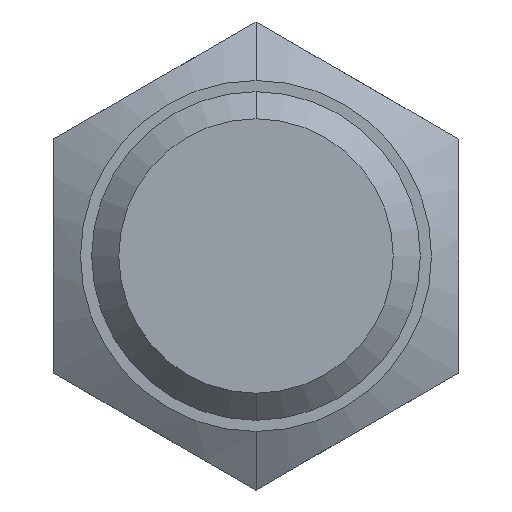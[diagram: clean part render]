
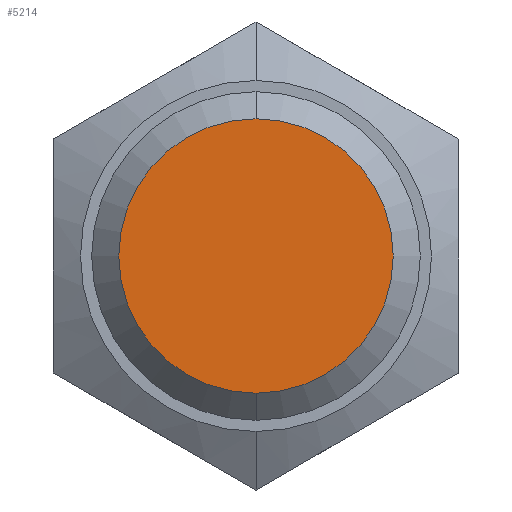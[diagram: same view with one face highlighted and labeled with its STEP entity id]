
A CAD part, front view. The second image highlights one B-rep face of the part: STEP entity #5214.
In plain terms, the highlighted planar face has unit normal (0, -1, 0).
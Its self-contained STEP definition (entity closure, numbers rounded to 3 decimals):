
#597 = VERTEX_POINT ( 'NONE', #4474 ) ;
#620 = VERTEX_POINT ( 'NONE', #4571 ) ;
#640 = EDGE_CURVE ( 'NONE', #620, #597, #4624, .T. ) ;
#3729 = CIRCLE ( 'NONE', #3730, 4.064 ) ;
#3730 = AXIS2_PLACEMENT_3D ( 'NONE', #3731, #3732, #3733 ) ;
#3731 = CARTESIAN_POINT ( 'NONE',  ( 0., -2., 0. ) ) ;
#3732 = DIRECTION ( 'NONE',  ( 0., -1., 0. ) ) ;
#3733 = DIRECTION ( 'NONE',  ( 0., 0., -1. ) ) ;
#4372 = FACE_OUTER_BOUND ( 'NONE', #5192, .T. ) ;
#4373 = PLANE ( 'NONE',  #4374 ) ;
#4374 = AXIS2_PLACEMENT_3D ( 'NONE', #4375, #4376, #4377 ) ;
#4375 = CARTESIAN_POINT ( 'NONE',  ( 0., -2., 0. ) ) ;
#4376 = DIRECTION ( 'NONE',  ( 0., -1., 0. ) ) ;
#4377 = DIRECTION ( 'NONE',  ( 0., 0., -1. ) ) ;
#4474 = CARTESIAN_POINT ( 'NONE',  ( 0., -2., 4.064 ) ) ;
#4571 = CARTESIAN_POINT ( 'NONE',  ( 0., -2., -4.064 ) ) ;
#4576 = ORIENTED_EDGE ( 'NONE', *, *, #640, .T. ) ;
#4624 = CIRCLE ( 'NONE', #4625, 4.064 ) ;
#4625 = AXIS2_PLACEMENT_3D ( 'NONE', #4626, #4630, #4631 ) ;
#4626 = CARTESIAN_POINT ( 'NONE',  ( 0., -2., 0. ) ) ;
#4630 = DIRECTION ( 'NONE',  ( 0., -1., 0. ) ) ;
#4631 = DIRECTION ( 'NONE',  ( 0., 0., -1. ) ) ;
#5071 = EDGE_CURVE ( 'NONE', #597, #620, #3729, .T. ) ;
#5144 = ORIENTED_EDGE ( 'NONE', *, *, #5071, .T. ) ;
#5192 = EDGE_LOOP ( 'NONE', ( #5144, #4576 ) ) ;
#5214 = ADVANCED_FACE ( 'NONE', ( #4372 ), #4373, .T. ) ;
